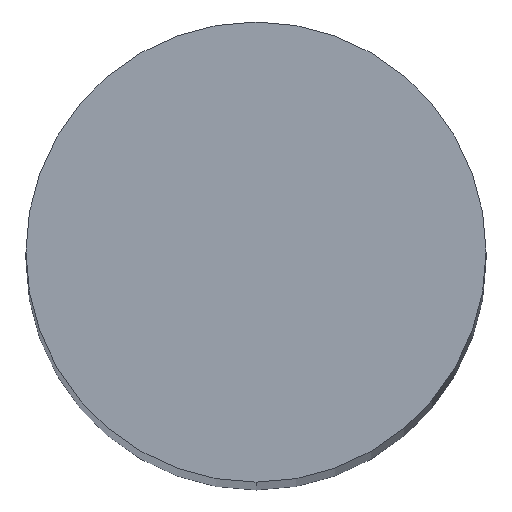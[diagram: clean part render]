
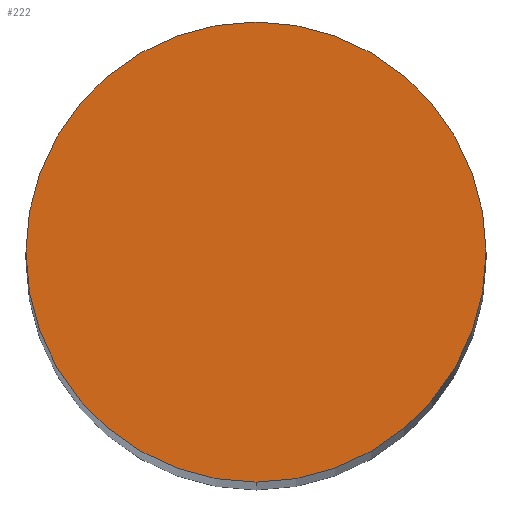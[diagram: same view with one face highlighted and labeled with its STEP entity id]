
A CAD part, top view. The second image highlights one B-rep face of the part: STEP entity #222.
In plain terms, the highlighted planar face has unit normal (0, 0, 1).
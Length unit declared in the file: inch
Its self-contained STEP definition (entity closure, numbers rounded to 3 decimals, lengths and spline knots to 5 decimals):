
#163=CARTESIAN_POINT('',(0.0,-0.0625,1.5));
#164=VERTEX_POINT('',#163);
#171=CARTESIAN_POINT('',(0.0,0.0625,1.5));
#172=VERTEX_POINT('',#171);
#173=CARTESIAN_POINT('',(0.0,0.0,1.5));
#174=DIRECTION('',(0.0,-0.0,-1.0));
#175=DIRECTION('',(0.0,1.0,-0.0));
#176=AXIS2_PLACEMENT_3D('',#173,#174,#175);
#177=CIRCLE('',#176,0.0625);
#178=EDGE_CURVE('no 1476',#164,#172,#177,.T.);
#198=CARTESIAN_POINT('',(0.0,0.0,1.5));
#199=DIRECTION('',(0.0,-0.0,-1.0));
#200=DIRECTION('',(0.0,1.0,-0.0));
#201=AXIS2_PLACEMENT_3D('',#198,#199,#200);
#202=CIRCLE('',#201,0.0625);
#203=EDGE_CURVE('no 1480',#172,#164,#202,.T.);
#213=ORIENTED_EDGE('',*,*,#178,.F.);
#214=ORIENTED_EDGE('',*,*,#203,.F.);
#215=EDGE_LOOP('',(#213,#214));
#216=FACE_OUTER_BOUND('',#215,.T.);
#217=CARTESIAN_POINT('',(0.0625,0.0,1.5));
#218=DIRECTION('',(0.0,0.0,1.0));
#219=DIRECTION('',(0.0,-1.0,0.0));
#220=AXIS2_PLACEMENT_3D('',#217,#218,#219);
#221=PLANE('',#220);
#222=ADVANCED_FACE('no 1590',(#216),#221,.T.);
